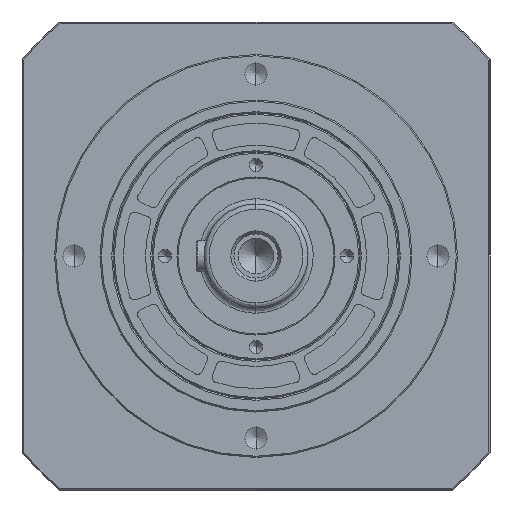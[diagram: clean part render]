
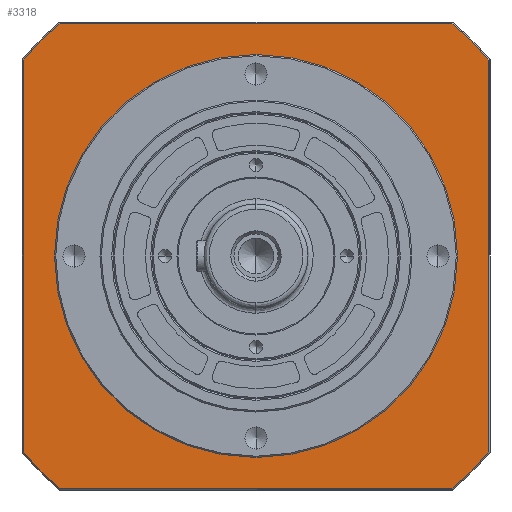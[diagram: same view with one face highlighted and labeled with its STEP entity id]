
A CAD part, left-side view. The second image highlights one B-rep face of the part: STEP entity #3318.
In plain terms, the highlighted planar face has unit normal (-1, 0, 0).
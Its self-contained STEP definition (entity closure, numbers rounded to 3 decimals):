
#46 = CIRCLE ( 'NONE', #8198, 117. ) ;
#352 = VERTEX_POINT ( 'NONE', #5891 ) ;
#396 = CARTESIAN_POINT ( 'NONE',  ( 0., -75.357, 89.5 ) ) ;
#906 = CARTESIAN_POINT ( 'NONE',  ( 0., 0., 0. ) ) ;
#947 = AXIS2_PLACEMENT_3D ( 'NONE', #9472, #6806, #16260 ) ;
#948 = LINE ( 'NONE', #1719, #2848 ) ;
#1191 = CARTESIAN_POINT ( 'NONE',  ( 0., 0., 0. ) ) ;
#1193 = CARTESIAN_POINT ( 'NONE',  ( 0., 0., 0. ) ) ;
#1197 = EDGE_CURVE ( 'NONE', #12711, #10310, #948, .T. ) ;
#1273 = DIRECTION ( 'NONE',  ( 0., 0., -1. ) ) ;
#1719 = CARTESIAN_POINT ( 'NONE',  ( 0., -90., -89.5 ) ) ;
#1824 = ORIENTED_EDGE ( 'NONE', *, *, #5588, .F. ) ;
#1891 = ORIENTED_EDGE ( 'NONE', *, *, #1197, .F. ) ;
#2049 = AXIS2_PLACEMENT_3D ( 'NONE', #906, #10442, #4906 ) ;
#2797 = LINE ( 'NONE', #3938, #9623 ) ;
#2848 = VECTOR ( 'NONE', #5618, 1000. ) ;
#2903 = CARTESIAN_POINT ( 'NONE',  ( 0., 89.5, 75.357 ) ) ;
#2949 = CIRCLE ( 'NONE', #2049, 63. ) ;
#2950 = EDGE_CURVE ( 'NONE', #10965, #12301, #10079, .T. ) ;
#3318 = ADVANCED_FACE ( 'NONE', ( #3660, #12812 ), #11615, .T. ) ;
#3565 = ORIENTED_EDGE ( 'NONE', *, *, #9929, .F. ) ;
#3660 = FACE_BOUND ( 'NONE', #6511, .T. ) ;
#3771 = ORIENTED_EDGE ( 'NONE', *, *, #15821, .F. ) ;
#3938 = CARTESIAN_POINT ( 'NONE',  ( 0., -90., 89.5 ) ) ;
#3998 = DIRECTION ( 'NONE',  ( 0., 0., -1. ) ) ;
#4199 = CARTESIAN_POINT ( 'NONE',  ( 0., 0., 0. ) ) ;
#4871 = VECTOR ( 'NONE', #8980, 1000. ) ;
#4906 = DIRECTION ( 'NONE',  ( 0., 0., 1. ) ) ;
#5090 = CARTESIAN_POINT ( 'NONE',  ( 0., 89.5, -75.357 ) ) ;
#5225 = EDGE_LOOP ( 'NONE', ( #14929, #13279, #3565, #3771, #1891, #11609, #1824, #14971 ) ) ;
#5500 = DIRECTION ( 'NONE',  ( 0., 0., -1. ) ) ;
#5588 = EDGE_CURVE ( 'NONE', #12301, #13550, #15895, .T. ) ;
#5618 = DIRECTION ( 'NONE',  ( 0., 1., 0. ) ) ;
#5891 = CARTESIAN_POINT ( 'NONE',  ( 0., 0., -63. ) ) ;
#5926 = VERTEX_POINT ( 'NONE', #5090 ) ;
#6339 = ORIENTED_EDGE ( 'NONE', *, *, #12512, .T. ) ;
#6421 = CARTESIAN_POINT ( 'NONE',  ( 0., 0., 63. ) ) ;
#6511 = EDGE_LOOP ( 'NONE', ( #14021, #6339 ) ) ;
#6544 = CARTESIAN_POINT ( 'NONE',  ( 0., 0., 0. ) ) ;
#6643 = DIRECTION ( 'NONE',  ( 0., 0., 1. ) ) ;
#6704 = DIRECTION ( 'NONE',  ( 1., 0., 0. ) ) ;
#6711 = CARTESIAN_POINT ( 'NONE',  ( 0., 75.357, -89.5 ) ) ;
#6806 = DIRECTION ( 'NONE',  ( 1., 0., 0. ) ) ;
#7029 = AXIS2_PLACEMENT_3D ( 'NONE', #6544, #14871, #1273 ) ;
#7085 = DIRECTION ( 'NONE',  ( 1., 0., 0. ) ) ;
#7215 = AXIS2_PLACEMENT_3D ( 'NONE', #1193, #6704, #3998 ) ;
#7256 = CARTESIAN_POINT ( 'NONE',  ( 0., 89.5, 90. ) ) ;
#8198 = AXIS2_PLACEMENT_3D ( 'NONE', #1191, #17592, #5500 ) ;
#8246 = CARTESIAN_POINT ( 'NONE',  ( 0., -89.5, 75.357 ) ) ;
#8405 = EDGE_CURVE ( 'NONE', #13550, #12711, #16446, .T. ) ;
#8980 = DIRECTION ( 'NONE',  ( 0., 0., -1. ) ) ;
#9265 = CIRCLE ( 'NONE', #7029, 117. ) ;
#9472 = CARTESIAN_POINT ( 'NONE',  ( 0., 0., 0. ) ) ;
#9623 = VECTOR ( 'NONE', #13345, 1000. ) ;
#9745 = EDGE_CURVE ( 'NONE', #13803, #352, #12388, .T. ) ;
#9870 = AXIS2_PLACEMENT_3D ( 'NONE', #4199, #7085, #12401 ) ;
#9929 = EDGE_CURVE ( 'NONE', #5926, #12799, #12824, .T. ) ;
#10079 = CIRCLE ( 'NONE', #7215, 117. ) ;
#10147 = EDGE_CURVE ( 'NONE', #15076, #10965, #2797, .T. ) ;
#10291 = VECTOR ( 'NONE', #11344, 1000. ) ;
#10310 = VERTEX_POINT ( 'NONE', #6711 ) ;
#10382 = CARTESIAN_POINT ( 'NONE',  ( 0., 90., -90. ) ) ;
#10442 = DIRECTION ( 'NONE',  ( 1., 0., 0. ) ) ;
#10965 = VERTEX_POINT ( 'NONE', #396 ) ;
#11344 = DIRECTION ( 'NONE',  ( 0., 0., 1. ) ) ;
#11609 = ORIENTED_EDGE ( 'NONE', *, *, #8405, .F. ) ;
#11615 = PLANE ( 'NONE',  #13679 ) ;
#11738 = DIRECTION ( 'NONE',  ( -1., 0., 0. ) ) ;
#12301 = VERTEX_POINT ( 'NONE', #8246 ) ;
#12388 = CIRCLE ( 'NONE', #9870, 63. ) ;
#12401 = DIRECTION ( 'NONE',  ( 0., 0., 1. ) ) ;
#12512 = EDGE_CURVE ( 'NONE', #352, #13803, #2949, .T. ) ;
#12711 = VERTEX_POINT ( 'NONE', #17528 ) ;
#12799 = VERTEX_POINT ( 'NONE', #2903 ) ;
#12812 = FACE_OUTER_BOUND ( 'NONE', #5225, .T. ) ;
#12824 = LINE ( 'NONE', #7256, #10291 ) ;
#13242 = CARTESIAN_POINT ( 'NONE',  ( 0., -89.5, 90. ) ) ;
#13279 = ORIENTED_EDGE ( 'NONE', *, *, #17308, .F. ) ;
#13345 = DIRECTION ( 'NONE',  ( 0., -1., 0. ) ) ;
#13550 = VERTEX_POINT ( 'NONE', #15458 ) ;
#13679 = AXIS2_PLACEMENT_3D ( 'NONE', #10382, #11738, #6643 ) ;
#13803 = VERTEX_POINT ( 'NONE', #6421 ) ;
#14021 = ORIENTED_EDGE ( 'NONE', *, *, #9745, .T. ) ;
#14501 = CARTESIAN_POINT ( 'NONE',  ( 0., 75.357, 89.5 ) ) ;
#14871 = DIRECTION ( 'NONE',  ( 1., 0., 0. ) ) ;
#14929 = ORIENTED_EDGE ( 'NONE', *, *, #10147, .F. ) ;
#14971 = ORIENTED_EDGE ( 'NONE', *, *, #2950, .F. ) ;
#15076 = VERTEX_POINT ( 'NONE', #14501 ) ;
#15458 = CARTESIAN_POINT ( 'NONE',  ( 0., -89.5, -75.357 ) ) ;
#15821 = EDGE_CURVE ( 'NONE', #10310, #5926, #9265, .T. ) ;
#15895 = LINE ( 'NONE', #13242, #4871 ) ;
#16260 = DIRECTION ( 'NONE',  ( 0., 0., -1. ) ) ;
#16446 = CIRCLE ( 'NONE', #947, 117. ) ;
#17308 = EDGE_CURVE ( 'NONE', #12799, #15076, #46, .T. ) ;
#17528 = CARTESIAN_POINT ( 'NONE',  ( 0., -75.357, -89.5 ) ) ;
#17592 = DIRECTION ( 'NONE',  ( 1., 0., 0. ) ) ;
